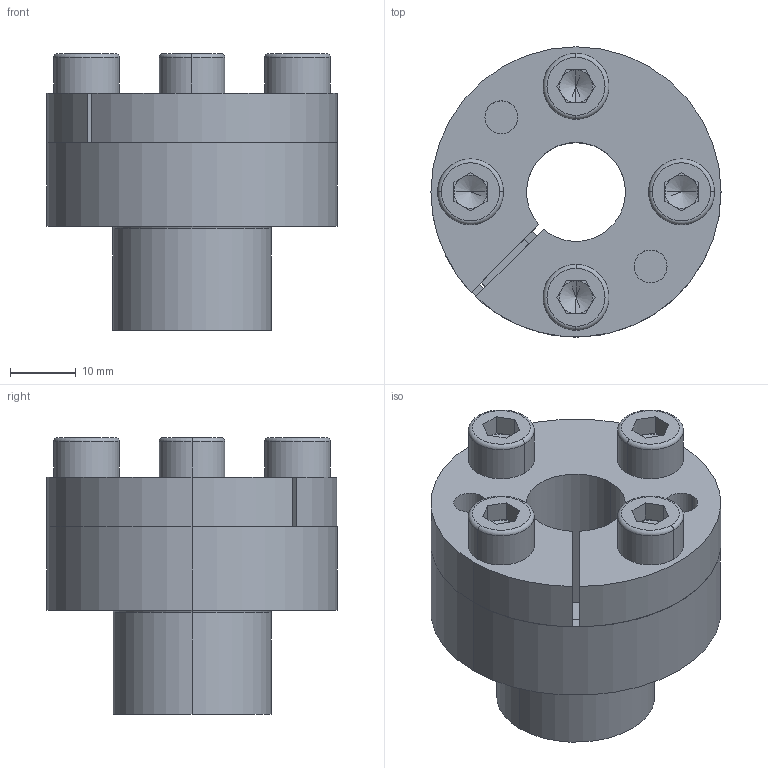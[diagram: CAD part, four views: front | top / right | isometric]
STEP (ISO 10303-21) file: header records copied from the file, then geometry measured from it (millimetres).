
FILE_DESCRIPTION (( 'STEP AP214' ), '1' );
FILE_NAME ('CONEX-B-15x24.step', '2013-04-04T12:41:16', ( 'Pc' ), ( '' ), 'SwSTEP 2.0', 'SolidWorks 2013', '' );
FILE_SCHEMA (( 'AUTOMOTIVE_DESIGN' ));
Length unit declared in the file: millimetre
Products named in the file (1): CONEX-B-15x24
Bounding box: 44 x 44 x 41.98 mm (x, y, z)
Volume: 28669.3 mm3; surface area: 20576.3 mm2
Topology: 7 solids, 7 shells, 168 faces, 390 edges, 236 vertices
Faces by surface type: plane 72, cylinder 52, torus 22, cone 22
Entity records: 6736 total; most frequent: DIRECTION 902, CARTESIAN_POINT 831, ORIENTED_EDGE 764, EDGE_CURVE 382, AXIS2_PLACEMENT_3D 359, VERTEX_POINT 236, EDGE_LOOP 198, CIRCLE 190
